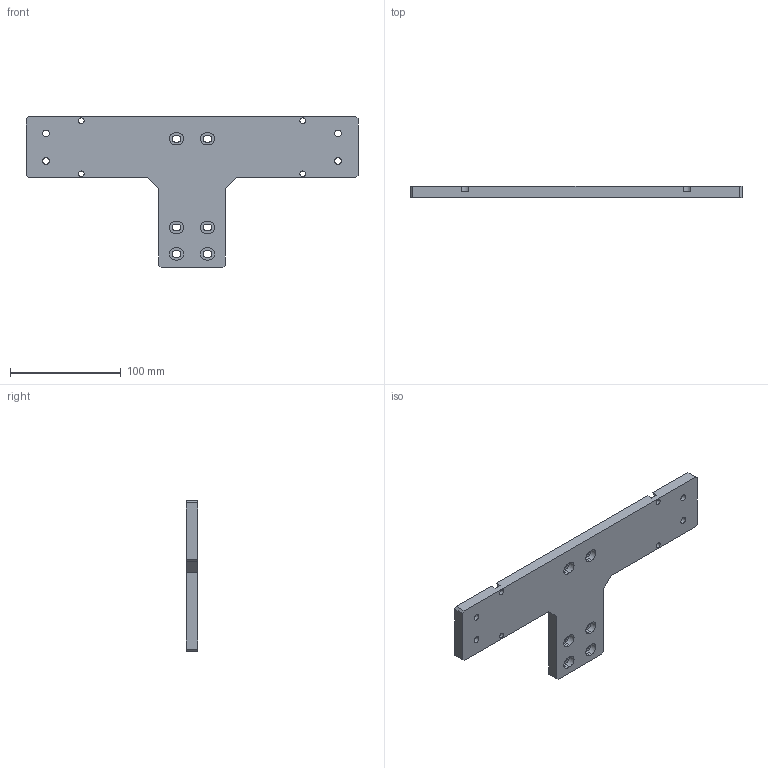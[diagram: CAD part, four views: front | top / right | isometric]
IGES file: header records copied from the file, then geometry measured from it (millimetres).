
Start section:  PTC IGES file: n60-n60l-st.igs
Global section: file name: n60-n60l-st.igs; native system: Pro/ENGINEER by Parametric Technology Corporation; preprocessor: 2008230; author: Owner; organization: Unknown; date: 20121211.162437; units: millimetre
Bounding box: 300 x 10 x 136 mm (x, y, z)
Surface area: 54271 mm2 (no closed solid volume)
Topology: 0 solids, 0 shells, 108 faces, 576 edges, 576 vertices
Faces by surface type: bspline 56, revolution 52
